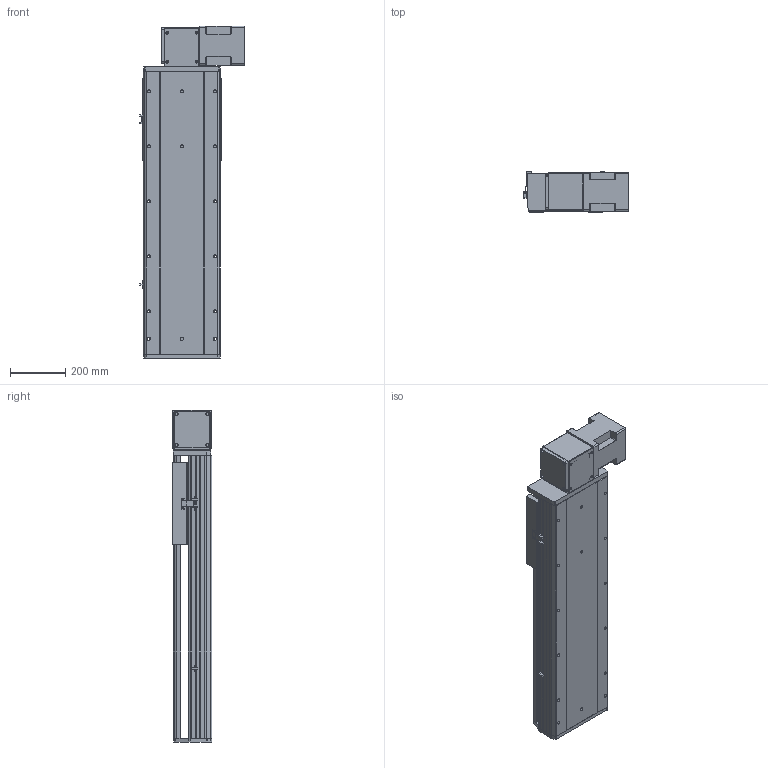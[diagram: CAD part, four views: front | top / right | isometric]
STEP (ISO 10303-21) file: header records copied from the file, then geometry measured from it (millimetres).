
FILE_DESCRIPTION (( 'STEP AP214' ), '1' );
FILE_NAME ('RTB28S-XX-600-BL-M100-XX-C4.STEP', '2025-12-22T02:17:34', ( '' ), ( '' ), 'SwSTEP 2.0', 'SolidWorks 2018', '' );
FILE_SCHEMA (( 'AUTOMOTIVE_DESIGN' ));
Length unit declared in the file: millimetre
Products named in the file (4): RTB28S-GY-011^RTB28S-XX-XX-BL-M100-XX-C4; RTB28S-GY-004^RTB28S-XX-XX-BL-M100-XX-C4; RTB28S-XX-600-BL-M100-XX-C4; RTB28S-GY-008^RTB28S-XX-XX-BL-M100-XX-C4
Assembly tree (3 placements, depth 2):
  RTB28S-XX-600-BL-M100-XX-C4
    RTB28S-GY-011^RTB28S-XX-XX-BL-M100-XX-C4
    RTB28S-GY-004^RTB28S-XX-XX-BL-M100-XX-C4
    RTB28S-GY-008^RTB28S-XX-XX-BL-M100-XX-C4
Bounding box: 380.7 x 145 x 1207 mm (x, y, z)
Volume: 23312125.7 mm3; surface area: 2293599.6 mm2
Topology: 3 solids, 4 shells, 768 faces, 2028 edges, 1288 vertices
Faces by surface type: cylinder 343, plane 341, cone 80, torus 4
Entity records: 28541 total; most frequent: CARTESIAN_POINT 4702, DIRECTION 4290, ORIENTED_EDGE 3992, EDGE_CURVE 1996, AXIS2_PLACEMENT_3D 1540, VERTEX_POINT 1288, VECTOR 1210, LINE 1210
